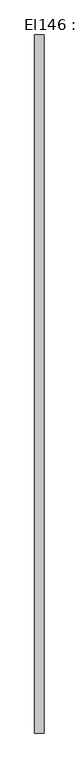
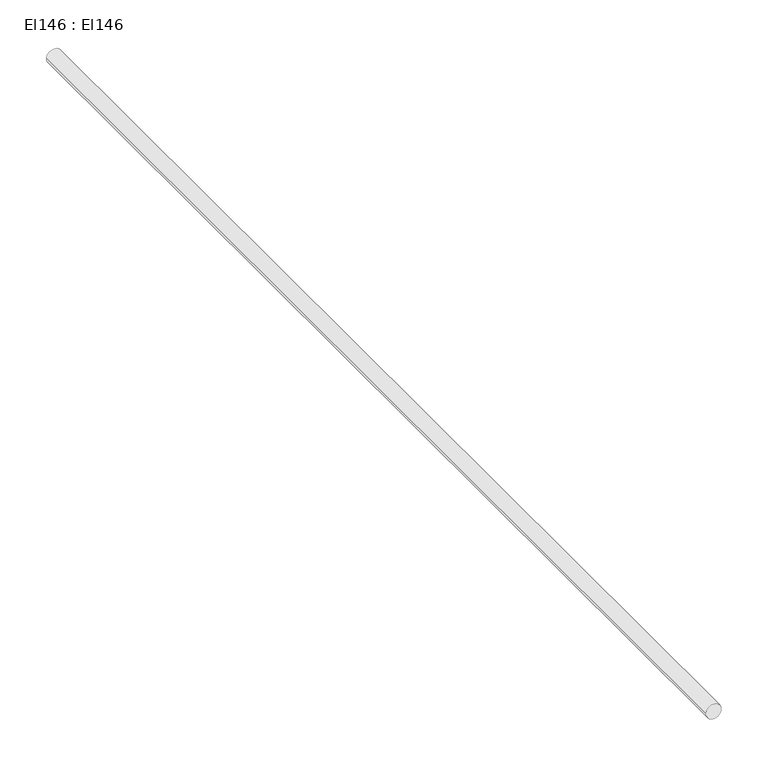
"""IFC4 building model written with IfcOpenShell, lengths in millimetres: cable carrier segment geometry, El146 : El146."""

from ifc_helpers import new_model, si_unit, point, frame, frame_2d, origin, place, context, project, spatial, circle_curve, trimmed, segment, composite_curve, outline, extrude, source, transform, mapped, element, save


def el146_el146_44b8ef9c(model_context):
    return source(origin(), model_context, "Body", "SweptSolid", [
        extrude(outline(composite_curve([segment(trimmed(circle_curve(frame_2d((2950.0, 22330.0)), 9.5), [point((2950.0, 22320.5))], [point((2950.0, 22339.5))], False, "CARTESIAN"), True, "CONTINUOUS"), segment(trimmed(circle_curve(frame_2d((2950.0, 22330.0)), 9.5), [point((2950.0, 22339.5))], [point((2950.0, 22320.5))], False, "CARTESIAN"), True, "CONTINUOUS")], self_intersect=False)), frame((0.0, 10946.25, 0.0), z_axis=(0.0, 1.0, 0.0), x_axis=(0.0, 0.0, 1.0)), (0.0, 0.0, 1.0), 1416.7),
    ])


if __name__ == "__main__":
    model = new_model("IFC4")
    model_context = context("Model", 3, world=origin())
    ifc_project = project(units=[si_unit("LENGTHUNIT", "METRE", prefix="MILLI")], contexts=[model_context])
    site = spatial("IfcSite", under=ifc_project)
    building = spatial("IfcBuilding", under=site)
    placement = place(None, origin())
    el146_el146_shape = el146_el146_44b8ef9c(model_context)
    element("IfcCableCarrierSegment", 1, ObjectType="El146 : El146", at=placement, inside=building, context=model_context, shape_type="MappedRepresentation", body=[
        mapped(el146_el146_shape, transform((0.0, 0.0, 0.0), x_axis=(1.0, 0.0, 0.0), y_axis=(0.0, 1.0, 0.0), z_axis=(0.0, 0.0, 1.0))),
    ])
    save(model, "model.ifc")
